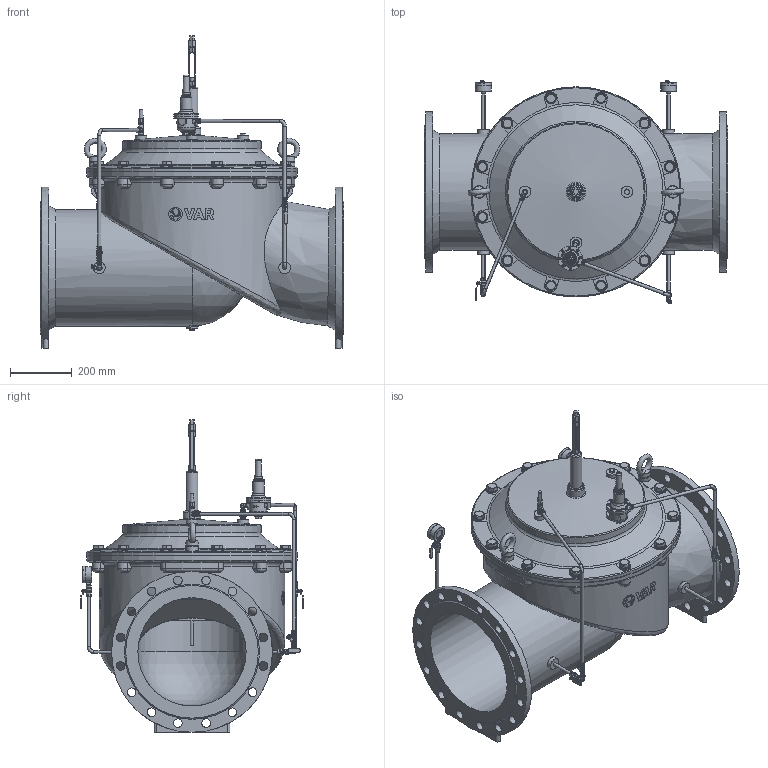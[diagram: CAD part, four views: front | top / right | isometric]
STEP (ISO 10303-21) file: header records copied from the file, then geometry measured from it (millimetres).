
FILE_DESCRIPTION(('STEP AP242'), '1');
FILE_NAME('PICO C200', '', ('UNSPECIFIED'), ('UNSPECIFIED'), 'C3D Converter', 'C3D Toolkit', '');
FILE_SCHEMA(('AP242_MANAGED_MODEL_BASED_3D_ENGINEERING_MIM_LF { 1 0 10303 442 1 1 4 }'));
Length unit declared in the file: millimetre
Products named in the file (26): М; ВР.752218.002
Assembly tree (69 placements, depth 3):
  (unnamed)
    (unnamed)
    (unnamed)
    (unnamed)
    (unnamed)
    (unnamed)
    (unnamed)
    (unnamed)
    М  x2
    (unnamed)
    (unnamed)  x4
    ВР.752218.002  x2
    (unnamed)  x6
    (unnamed)
    (unnamed)  x4
    (unnamed)
    (unnamed)
      (unnamed)
      (unnamed)
      (unnamed)  x8
      (unnamed)
    (unnamed)
    (unnamed)  x2
    (unnamed)  x2
    (unnamed)  x12
    (unnamed)  x12
Bounding box: 980 x 720 x 1010 mm (x, y, z)
Volume: 48168437.5 mm3; surface area: 7075530.8 mm2
Topology: 75 solids, 77 shells, 3069 faces, 7704 edges, 5042 vertices
Faces by surface type: plane 1677, cylinder 681, cone 322, extrusion 173, torus 121, bspline 84, sphere 11
Full cylindrical faces by diameter (mm): 0.518 x2, 1.2 x1, 2.5 x2, 3 x8, 4 x25, 4.2 x4, 4.5 x4, 5 x2, 6 x8, 7 x8, 8 x5, 8.7 x1, 9 x16, 9.3 x6, 9.5 x2, 10 x4, 10.2 x4, 10.8 x2, 11 x18, 11.16 x4, 11.179 x6, 11.22 x4, 11.4 x2, 11.577 x2, 12 x10, 12.5 x3, 12.573 x15, 13.157 x2, 13.8 x4, 14.4 x5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
Entity records: 121188 total; most frequent: CARTESIAN_POINT 67864, ORIENTED_EDGE 8528, DIRECTION 7784, EDGE_CURVE 4264, VERTEX_POINT 3043, AXIS2_PLACEMENT_3D 2875, EDGE_LOOP 2629, FACE_BOUND 2060
